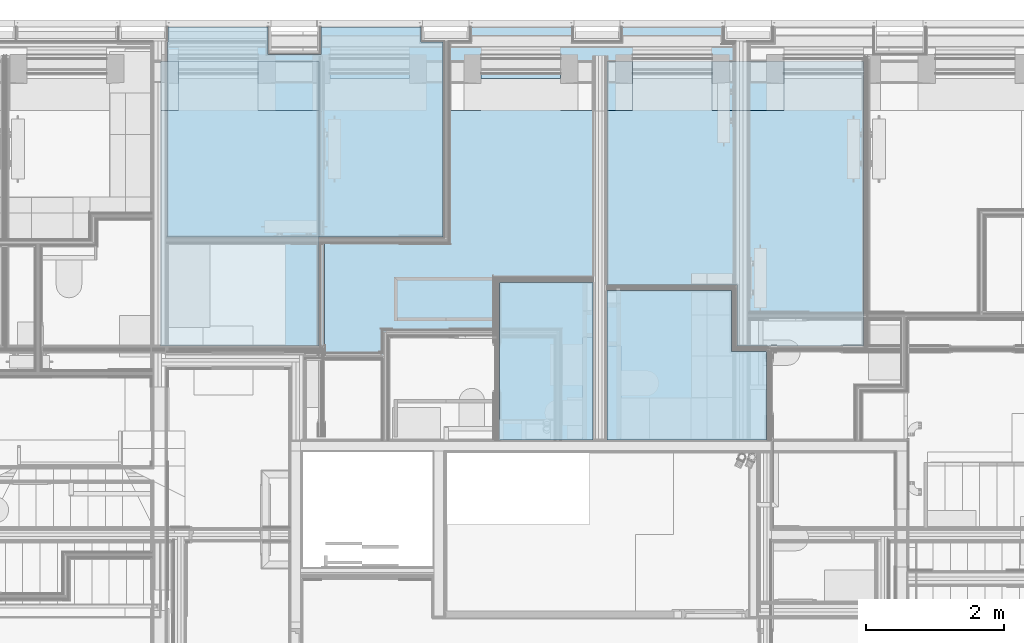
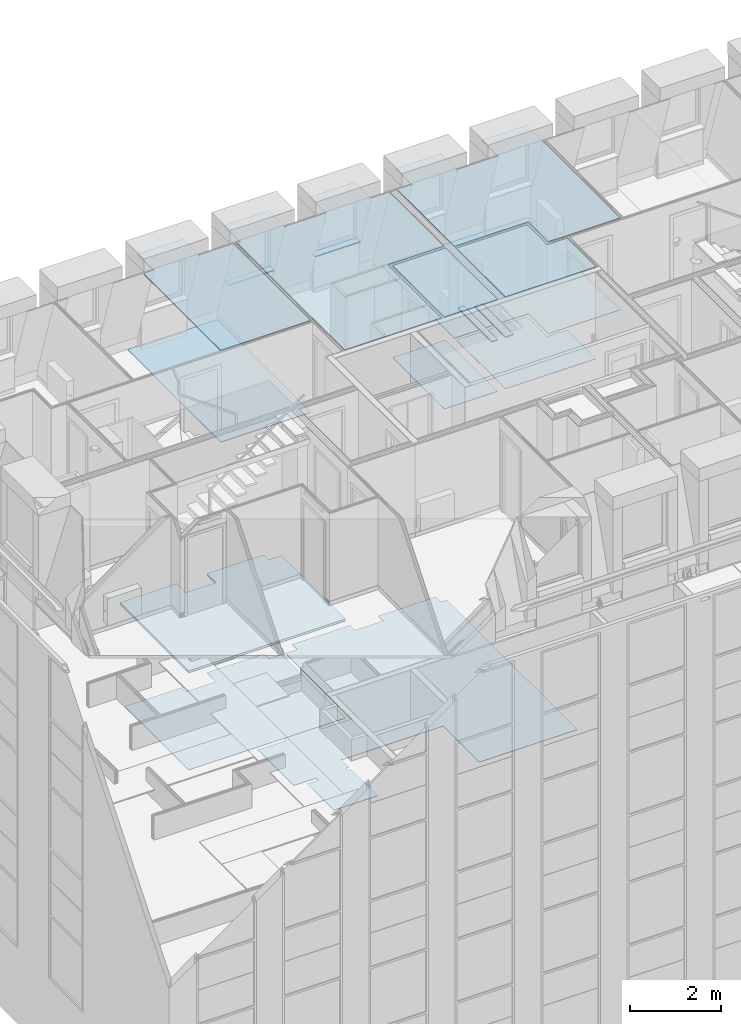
# One storey, part 75 of 169: 25 slabs.
"""IFC2X3 building model written with IfcOpenShell, lengths in metres."""

from ifc_helpers import new_model, entity, si_unit, converted_unit, derived_unit, money_unit, direction, frame, origin_with_axes, place, context, subcontext, project, spatial, faceted_brep, material, type_object, element, save


model = new_model("IFC2X3")

# Units and contexts
model_context = context("Model", 3, precision=1e-05, world=origin_with_axes(), true_north=direction((0.0, 1.0)))
body_context = subcontext(model_context, "Body", "Model", "MODEL_VIEW", scale=1.0)
ifc_project = project(units=[si_unit("LENGTHUNIT", "METRE"), si_unit("AREAUNIT", "SQUARE_METRE"), si_unit("VOLUMEUNIT", "CUBIC_METRE"), si_unit("ABSORBEDDOSEUNIT", "GRAY"), si_unit("AMOUNTOFSUBSTANCEUNIT", "MOLE"), si_unit("DOSEEQUIVALENTUNIT", "SIEVERT"), si_unit("ELECTRICCAPACITANCEUNIT", "FARAD"), si_unit("ELECTRICCHARGEUNIT", "COULOMB"), si_unit("ELECTRICCONDUCTANCEUNIT", "SIEMENS"), si_unit("ELECTRICCURRENTUNIT", "AMPERE"), si_unit("ELECTRICRESISTANCEUNIT", "OHM"), si_unit("ELECTRICVOLTAGEUNIT", "VOLT"), si_unit("ENERGYUNIT", "JOULE"), si_unit("FORCEUNIT", "NEWTON"), si_unit("FREQUENCYUNIT", "HERTZ"), si_unit("ILLUMINANCEUNIT", "LUX"), si_unit("INDUCTANCEUNIT", "HENRY"), si_unit("LUMINOUSFLUXUNIT", "LUMEN"), si_unit("LUMINOUSINTENSITYUNIT", "CANDELA"), si_unit("MAGNETICFLUXDENSITYUNIT", "TESLA"), si_unit("MAGNETICFLUXUNIT", "WEBER"), si_unit("MASSUNIT", "GRAM"), converted_unit("PLANEANGLEUNIT", "degree", entity("IfcReal", 0.0174532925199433), si_unit("PLANEANGLEUNIT", "RADIAN"), dimensions=[0, 0, 0, 0, 0, 0, 0]), si_unit("POWERUNIT", "WATT"), si_unit("PRESSUREUNIT", "PASCAL"), si_unit("RADIOACTIVITYUNIT", "BECQUEREL"), si_unit("SOLIDANGLEUNIT", "STERADIAN"), si_unit("THERMODYNAMICTEMPERATUREUNIT", "KELVIN"), si_unit("TIMEUNIT", "SECOND"), derived_unit("ACCELERATIONUNIT", [(si_unit("LENGTHUNIT", "METRE"), 1), (si_unit("TIMEUNIT", "SECOND"), -2)]), derived_unit("ANGULARVELOCITYUNIT", [(converted_unit("PLANEANGLEUNIT", "degree", entity("IfcReal", 0.0174532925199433), si_unit("PLANEANGLEUNIT", "RADIAN"), dimensions=[0, 0, 0, 0, 0, 0, 0]), 1), (si_unit("TIMEUNIT", "SECOND"), -1)]), derived_unit("CURVATUREUNIT", [(converted_unit("PLANEANGLEUNIT", "degree", entity("IfcReal", 0.0174532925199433), si_unit("PLANEANGLEUNIT", "RADIAN"), dimensions=[0, 0, 0, 0, 0, 0, 0]), 1), (si_unit("LENGTHUNIT", "METRE"), -1)]), derived_unit("DYNAMICVISCOSITYUNIT", [(si_unit("PRESSUREUNIT", "PASCAL"), 1), (si_unit("TIMEUNIT", "SECOND"), 1)]), derived_unit("HEATFLUXDENSITYUNIT", [(si_unit("POWERUNIT", "WATT"), 1), (si_unit("LENGTHUNIT", "METRE"), -2)]), derived_unit("HEATINGVALUEUNIT", [(si_unit("ENERGYUNIT", "JOULE"), 1), (si_unit("MASSUNIT", "GRAM"), -1)]), derived_unit("INTEGERCOUNTRATEUNIT", [(si_unit("TIMEUNIT", "SECOND"), -1)]), derived_unit("IONCONCENTRATIONUNIT", [(si_unit("MASSUNIT", "GRAM"), 1), (si_unit("VOLUMEUNIT", "CUBIC_METRE"), -1)]), derived_unit("ISOTHERMALMOISTURECAPACITYUNIT", [(si_unit("VOLUMEUNIT", "CUBIC_METRE"), 1), (si_unit("MASSUNIT", "GRAM"), -1)]), derived_unit("KINEMATICVISCOSITYUNIT", [(si_unit("AREAUNIT", "SQUARE_METRE"), 1), (si_unit("TIMEUNIT", "SECOND"), -1)]), derived_unit("LINEARFORCEUNIT", [(si_unit("FORCEUNIT", "NEWTON"), 1), (si_unit("LENGTHUNIT", "METRE"), -1)]), derived_unit("LINEARMOMENTUNIT", [(si_unit("FORCEUNIT", "NEWTON"), 1), (si_unit("LENGTHUNIT", "METRE"), -1)]), derived_unit("LINEARSTIFFNESSUNIT", [(si_unit("FORCEUNIT", "NEWTON"), 1), (si_unit("LENGTHUNIT", "METRE"), -1)]), derived_unit("LINEARVELOCITYUNIT", [(si_unit("LENGTHUNIT", "METRE"), 1), (si_unit("TIMEUNIT", "SECOND"), -1)]), derived_unit("LUMINOUSINTENSITYDISTRIBUTIONUNIT", [(si_unit("LUMINOUSINTENSITYUNIT", "CANDELA"), 1), (si_unit("LUMINOUSFLUXUNIT", "LUMEN"), -1)]), derived_unit("MASSDENSITYUNIT", [(si_unit("MASSUNIT", "GRAM"), 1), (si_unit("VOLUMEUNIT", "CUBIC_METRE"), -1)]), derived_unit("MASSFLOWRATEUNIT", [(si_unit("MASSUNIT", "GRAM"), 1), (si_unit("TIMEUNIT", "SECOND"), -1)]), derived_unit("MASSPERLENGTHUNIT", [(si_unit("MASSUNIT", "GRAM"), 1), (si_unit("LENGTHUNIT", "METRE"), -1)]), derived_unit("MODULUSOFELASTICITYUNIT", [(si_unit("FORCEUNIT", "NEWTON"), 1), (si_unit("AREAUNIT", "SQUARE_METRE"), -1)]), derived_unit("MODULUSOFLINEARSUBGRADEREACTIONUNIT", [(si_unit("FORCEUNIT", "NEWTON"), 1), (si_unit("LENGTHUNIT", "METRE"), -2)]), derived_unit("MODULUSOFROTATIONALSUBGRADEREACTIONUNIT", [(si_unit("FORCEUNIT", "NEWTON"), 1), (si_unit("LENGTHUNIT", "METRE"), 1)]), derived_unit("MODULUSOFSUBGRADEREACTIONUNIT", [(si_unit("FORCEUNIT", "NEWTON"), 1), (si_unit("VOLUMEUNIT", "CUBIC_METRE"), -1)]), derived_unit("MOISTUREDIFFUSIVITYUNIT", [(si_unit("VOLUMEUNIT", "CUBIC_METRE"), 1), (si_unit("TIMEUNIT", "SECOND"), -1)]), derived_unit("MOLECULARWEIGHTUNIT", [(si_unit("MASSUNIT", "GRAM"), 1), (si_unit("AMOUNTOFSUBSTANCEUNIT", "MOLE"), -1)]), derived_unit("PLANARFORCEUNIT", [(si_unit("FORCEUNIT", "NEWTON"), 1), (si_unit("LENGTHUNIT", "METRE"), -2)]), derived_unit("ROTATIONALFREQUENCYUNIT", [(si_unit("TIMEUNIT", "SECOND"), -1)]), derived_unit("ROTATIONALMASSUNIT", [(si_unit("MASSUNIT", "GRAM"), 1), (si_unit("LENGTHUNIT", "METRE"), 2)]), derived_unit("ROTATIONALSTIFFNESSUNIT", [(si_unit("FORCEUNIT", "NEWTON"), 1), (si_unit("LENGTHUNIT", "METRE"), 1), (converted_unit("PLANEANGLEUNIT", "degree", entity("IfcReal", 0.0174532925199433), si_unit("PLANEANGLEUNIT", "RADIAN"), dimensions=[0, 0, 0, 0, 0, 0, 0]), -1)]), derived_unit("SECTIONAREAINTEGRALUNIT", [(si_unit("LENGTHUNIT", "METRE"), 5)]), derived_unit("SECTIONMODULUSUNIT", [(si_unit("LENGTHUNIT", "METRE"), 3)]), derived_unit("SHEARMODULUSUNIT", [(si_unit("FORCEUNIT", "NEWTON"), 1), (si_unit("AREAUNIT", "SQUARE_METRE"), -1)]), derived_unit("SOUNDPOWERUNIT", [(si_unit("ENERGYUNIT", "JOULE"), 1), (si_unit("TIMEUNIT", "SECOND"), -1)]), derived_unit("SPECIFICHEATCAPACITYUNIT", [(si_unit("FORCEUNIT", "NEWTON"), 1), (si_unit("MASSUNIT", "GRAM"), -1), (si_unit("THERMODYNAMICTEMPERATUREUNIT", "KELVIN"), -1)]), derived_unit("TEMPERATUREGRADIENTUNIT", [(si_unit("THERMODYNAMICTEMPERATUREUNIT", "KELVIN"), 1), (si_unit("LENGTHUNIT", "METRE"), -1)]), derived_unit("THERMALADMITTANCEUNIT", [(si_unit("POWERUNIT", "WATT"), 1), (si_unit("AREAUNIT", "SQUARE_METRE"), -1), (si_unit("THERMODYNAMICTEMPERATUREUNIT", "KELVIN"), -1)]), derived_unit("THERMALCONDUCTANCEUNIT", [(si_unit("POWERUNIT", "WATT"), 1), (si_unit("LENGTHUNIT", "METRE"), -1), (si_unit("THERMODYNAMICTEMPERATUREUNIT", "KELVIN"), -1)]), derived_unit("THERMALEXPANSIONCOEFFICIENTUNIT", [(si_unit("THERMODYNAMICTEMPERATUREUNIT", "KELVIN"), -1)]), derived_unit("THERMALRESISTANCEUNIT", [(si_unit("AREAUNIT", "SQUARE_METRE"), 1), (si_unit("POWERUNIT", "WATT"), -1)]), derived_unit("THERMALTRANSMITTANCEUNIT", [(si_unit("POWERUNIT", "WATT"), 1), (si_unit("AREAUNIT", "SQUARE_METRE"), -1), (si_unit("THERMODYNAMICTEMPERATUREUNIT", "KELVIN"), -1)]), derived_unit("TORQUEUNIT", [(si_unit("FORCEUNIT", "NEWTON"), 1), (si_unit("LENGTHUNIT", "METRE"), 1)]), derived_unit("VAPORPERMEABILITYUNIT", [(si_unit("MASSUNIT", "GRAM"), 1), (si_unit("TIMEUNIT", "SECOND"), -1)]), derived_unit("VOLUMETRICFLOWRATEUNIT", [(si_unit("VOLUMEUNIT", "CUBIC_METRE"), 1), (si_unit("TIMEUNIT", "SECOND"), -1)]), derived_unit("WARPINGCONSTANTUNIT", [(si_unit("LENGTHUNIT", "METRE"), 6)]), derived_unit("WARPINGMOMENTUNIT", [(si_unit("FORCEUNIT", "NEWTON"), 1), (si_unit("LENGTHUNIT", "METRE"), 2)]), money_unit("GBP")], contexts=[model_context])

# Site, building, storey
site_placement = place(None, origin_with_axes())
site = spatial("IfcSite", under=ifc_project, at=site_placement, Name="Site", CompositionType="ELEMENT")
building_placement = place(site_placement, origin_with_axes())
building = spatial("IfcBuilding", under=site, at=building_placement, Name="Building01", CompositionType="ELEMENT")
storey_placement = place(building_placement, frame((0.0, 0.0, 5.15), z_axis=(0.0, 0.0, 1.0), x_axis=(1.0, 0.0, 0.0)))
storey = spatial("IfcBuildingStorey", under=building, at=storey_placement, Name="1F", CompositionType="ELEMENT", Elevation=5.15)

# Slabs
ifc_material_1 = material(Name="A_BSUK_Parquet_Floor")
slab_type_1 = type_object("IfcSlabType", Name="A-FloorsSlabs A_BSUK_Slabs", PredefinedType="FLOOR")
placement = place(storey_placement, frame((0.0, 0.0, -5.15), z_axis=(0.0, 0.0, 1.0), x_axis=(1.0, 0.0, 0.0)))
element("IfcSlab", 1, at=placement, inside=storey, type_object=slab_type_1, material=ifc_material_1, Name="A-FloorsSlabs A_BSUK_Slabs", ObjectType="CompoundSlabLeaf", context=body_context, shape_type="Brep", body=[
    faceted_brep([(9.285, 9.200704, 5.153), (9.285, 9.200704, 5.165), (9.285, 9.992662, 5.165), (9.285, 9.992662, 5.153), (9.285, 8.82, 5.153), (9.285, 8.82, 5.165), (10.393585, 8.82, 5.153), (10.393585, 8.82, 5.165), (10.393585, 9.992704, 5.153), (10.393585, 9.992704, 5.165), (10.309871, 9.992704, 5.153), (10.309871, 9.992704, 5.165), (10.309871, 10.087704, 5.153), (10.309871, 10.087704, 5.165), (10.393871, 10.087704, 5.153), (10.393871, 10.087704, 5.165), (10.393871, 10.415, 5.153), (10.393871, 10.415, 5.165), (12.988585, 10.415, 5.153), (12.988585, 10.415, 5.165), (12.988585, 8.82, 5.153), (12.988585, 8.82, 5.165), (15.483132, 8.82, 5.153), (15.483132, 8.82, 5.165), (15.483132, 14.582, 5.153), (15.483132, 14.582, 5.165), (15.335, 14.582, 5.153), (15.335, 14.582, 5.165), (15.335, 14.8, 5.153), (15.335, 14.8, 5.165), (13.865, 14.8, 5.153), (13.865, 14.8, 5.165), (13.865, 14.582, 5.153), (13.865, 14.582, 5.165), (13.145, 14.582, 5.153), (13.145, 14.582, 5.165), (13.145, 14.8, 5.153), (13.145, 14.8, 5.165), (11.675, 14.8, 5.153), (11.675, 14.8, 5.165), (11.675, 14.582, 5.153), (11.675, 14.582, 5.165), (11.375, 14.582, 5.153), (11.375, 14.582, 5.165), (11.375, 11.668124, 5.153), (11.375, 11.668124, 5.165), (10.611, 11.668124, 5.153), (10.611, 11.668124, 5.165), (10.611, 11.763124, 5.153), (10.611, 11.763124, 5.165), (9.711, 11.763124, 5.153), (9.711, 11.763124, 5.165), (9.711, 11.668124, 5.153), (9.711, 11.668124, 5.165), (8.995, 11.668124, 5.153), (8.995, 11.668124, 5.165), (8.995, 10.087704, 5.153), (8.995, 10.087704, 5.165), (9.09, 10.087704, 5.153), (9.09, 10.087704, 5.165), (9.559871, 10.087704, 5.153), (9.559871, 10.087704, 5.165), (9.559871, 9.992704, 5.153), (9.559871, 9.992704, 5.165)], [[[0, 1, 2, 3]], [[4, 5, 1, 0]], [[6, 7, 5, 4]], [[8, 9, 7, 6]], [[10, 11, 9, 8]], [[12, 13, 11, 10]], [[14, 15, 13, 12]], [[16, 17, 15, 14]], [[18, 19, 17, 16]], [[20, 21, 19, 18]], [[22, 23, 21, 20]], [[24, 25, 23, 22]], [[26, 27, 25, 24]], [[28, 29, 27, 26]], [[30, 31, 29, 28]], [[32, 33, 31, 30]], [[34, 35, 33, 32]], [[36, 37, 35, 34]], [[38, 39, 37, 36]], [[40, 41, 39, 38]], [[42, 43, 41, 40]], [[44, 45, 43, 42]], [[46, 47, 45, 44]], [[48, 49, 47, 46]], [[50, 51, 49, 48]], [[52, 53, 51, 50]], [[54, 55, 53, 52]], [[56, 57, 55, 54]], [[58, 59, 57, 56]], [[60, 61, 59, 58]], [[62, 63, 61, 60]], [[3, 2, 63, 62]], [[1, 5, 7, 9, 11, 13, 15, 17, 19, 21, 23, 25, 27, 29, 31, 33, 35, 37, 39, 41, 43, 45, 47, 49, 51, 53, 55, 57, 59, 61, 63, 2]], [[3, 62, 60, 58, 56, 54, 52, 50, 48, 46, 44, 42, 40, 38, 36, 34, 32, 30, 28, 26, 24, 22, 20, 18, 16, 14, 12, 10, 8, 6, 4, 0]]]),
])
ifc_material_2 = material(Name="A_BSUK_Carpet-Pile")
element("IfcSlab", 2, at=placement, inside=storey, type_object=slab_type_1, material=ifc_material_2, Name="A-FloorsSlabs A_BSUK_Slabs", ObjectType="CompoundSlabLeaf", context=body_context, shape_type="Brep", body=[
    faceted_brep([(7.289669, 11.763124, 5.153), (7.289669, 11.763124, 5.165), (7.289669, 14.582, 5.165), (7.289669, 14.582, 5.153), (8.995, 11.763124, 5.153), (8.995, 11.763124, 5.165), (11.28, 11.763124, 5.153), (11.28, 11.763124, 5.165), (11.28, 14.582, 5.153), (11.28, 14.582, 5.165), (10.955, 14.582, 5.153), (10.955, 14.582, 5.165), (10.955, 14.8, 5.153), (10.955, 14.8, 5.165), (9.508, 14.8, 5.153), (9.508, 14.8, 5.165), (9.508, 14.402, 5.153), (9.508, 14.402, 5.165), (8.742, 14.402, 5.153), (8.742, 14.402, 5.165), (8.742, 14.582, 5.153), (8.742, 14.582, 5.165), (7.295, 14.582, 5.153), (7.295, 14.582, 5.165)], [[[0, 1, 2, 3]], [[4, 5, 1, 0]], [[6, 7, 5, 4]], [[8, 9, 7, 6]], [[10, 11, 9, 8]], [[12, 13, 11, 10]], [[14, 15, 13, 12]], [[16, 17, 15, 14]], [[18, 19, 17, 16]], [[20, 21, 19, 18]], [[22, 23, 21, 20]], [[3, 2, 23, 22]], [[1, 5, 7, 9, 11, 13, 15, 17, 19, 21, 23, 2]], [[3, 22, 20, 18, 16, 14, 12, 10, 8, 6, 4, 0]]]),
])
ifc_material_3 = material(Name="A_BSUK_CeilingSoffitFinishes_Suspended")
element("IfcSlab", 3, at=placement, inside=storey, type_object=slab_type_1, material=ifc_material_3, Name="A-FloorsSlabs A_BSUK_Slabs", ObjectType="CompoundSlabLeaf", context=body_context, shape_type="Brep", body=[
    faceted_brep([(7.289669, 12.013124, 7.765), (7.289669, 12.013124, 7.78), (7.289669, 14.582, 7.78), (7.289669, 14.582, 7.765), (7.289669, 11.763124, 7.765), (7.289669, 11.763124, 7.78), (11.28, 11.763124, 7.765), (11.28, 11.763124, 7.78), (11.28, 14.582, 7.765), (11.28, 14.582, 7.78), (10.955, 14.582, 7.765), (10.955, 14.582, 7.78), (10.955, 14.8, 7.765), (10.955, 14.8, 7.78), (9.508, 14.8, 7.765), (9.508, 14.8, 7.78), (9.508, 14.402, 7.765), (9.508, 14.402, 7.78), (8.742, 14.402, 7.765), (8.742, 14.402, 7.78), (8.742, 14.8, 7.765), (8.742, 14.8, 7.78), (7.295, 14.8, 7.765), (7.295, 14.8, 7.78), (7.295, 14.582, 7.765), (7.295, 14.582, 7.78)], [[[0, 1, 2, 3]], [[4, 5, 1, 0]], [[6, 7, 5, 4]], [[8, 9, 7, 6]], [[10, 11, 9, 8]], [[12, 13, 11, 10]], [[14, 15, 13, 12]], [[16, 17, 15, 14]], [[18, 19, 17, 16]], [[20, 21, 19, 18]], [[22, 23, 21, 20]], [[24, 25, 23, 22]], [[3, 2, 25, 24]], [[1, 5, 7, 9, 11, 13, 15, 17, 19, 21, 23, 25, 2]], [[3, 24, 22, 20, 18, 16, 14, 12, 10, 8, 6, 4, 0]]]),
])
ifc_material_4 = material(Name="A_BSUK_Ceramic_WallTiles")
element("IfcSlab", 4, at=placement, inside=storey, type_object=slab_type_1, material=ifc_material_4, Name="A-FloorsSlabs A_BSUK_Slabs", ObjectType="CompoundSlabLeaf", context=body_context, shape_type="Brep", body=[
    faceted_brep([(13.45, 8.82, 16.355), (13.45, 8.82, 16.38), (13.297256, 8.82, 16.38), (13.297256, 8.82, 16.355), (13.45, 10.303849, 16.355), (13.45, 10.303849, 16.38), (13.297393, 10.303849, 16.355), (13.297393, 10.303849, 16.38)], [[[0, 1, 2, 3]], [[4, 5, 1, 0]], [[6, 7, 5, 4]], [[3, 2, 7, 6]], [[1, 5, 7, 2]], [[3, 6, 4, 0]]]),
])
element("IfcSlab", 5, at=placement, inside=storey, type_object=slab_type_1, material=ifc_material_4, Name="A-FloorsSlabs A_BSUK_Slabs", ObjectType="CompoundSlabLeaf", context=body_context, shape_type="Brep", body=[
    faceted_brep([(13.849998, 8.82, 16.355), (13.849998, 8.82, 16.38), (13.65, 8.82, 16.38), (13.65, 8.82, 16.355), (13.849998, 10.185441, 16.355), (13.849998, 10.185441, 16.38), (13.65, 10.185441, 16.355), (13.65, 10.185441, 16.38)], [[[0, 1, 2, 3]], [[4, 5, 1, 0]], [[6, 7, 5, 4]], [[3, 2, 7, 6]], [[1, 5, 7, 2]], [[3, 6, 4, 0]]]),
])
element("IfcSlab", 6, at=placement, inside=storey, type_object=slab_type_1, material=ifc_material_3, Name="A-FloorsSlabs A_BSUK_Slabs", ObjectType="CompoundSlabLeaf", context=body_context, shape_type="Brep", body=[
    faceted_brep([(9.480024, 10.179939, 17.423), (9.480024, 10.179939, 17.438), (7.190024, 10.179939, 17.438), (7.190024, 10.179939, 17.423), (9.480024, 13.587598, 17.423), (9.480024, 13.587598, 17.438), (8.600024, 13.587598, 17.423), (8.600024, 13.587598, 17.438), (8.600024, 14.300061, 17.423), (8.600024, 14.300061, 17.438), (7.450024, 14.300061, 17.423), (7.450024, 14.300061, 17.438), (7.450024, 13.587598, 17.423), (7.450024, 13.587598, 17.438), (7.190024, 13.587598, 17.423), (7.190024, 13.587598, 17.438)], [[[0, 1, 2, 3]], [[4, 5, 1, 0]], [[6, 7, 5, 4]], [[8, 9, 7, 6]], [[10, 11, 9, 8]], [[12, 13, 11, 10]], [[14, 15, 13, 12]], [[3, 2, 15, 14]], [[1, 5, 7, 9, 11, 13, 15, 2]], [[3, 14, 12, 10, 8, 6, 4, 0]]]),
])
element("IfcSlab", 7, at=placement, inside=storey, type_object=slab_type_1, material=ifc_material_3, Name="A-FloorsSlabs A_BSUK_Slabs", ObjectType="CompoundSlabLeaf", context=body_context, shape_type="Brep", body=[
    faceted_brep([(13.65, 11.063789, 17.423), (13.65, 11.063789, 17.438), (13.65, 13.587598, 17.438), (13.65, 13.587598, 17.423), (15.529998, 11.063789, 17.423), (15.529998, 11.063789, 17.438), (15.529998, 10.179939, 17.423), (15.529998, 10.179939, 17.438), (17.360024, 10.179939, 17.423), (17.360024, 10.179939, 17.438), (17.360024, 14.300061, 17.423), (17.360024, 14.300061, 17.438), (16.210024, 14.300061, 17.423), (16.210024, 14.300061, 17.438), (16.210024, 13.587598, 17.423), (16.210024, 13.587598, 17.438), (15.169976, 13.587598, 17.423), (15.169976, 13.587598, 17.438), (15.169976, 14.300061, 17.423), (15.169976, 14.300061, 17.438), (14.020024, 14.300061, 17.423), (14.020024, 14.300061, 17.438), (14.020024, 13.587598, 17.423), (14.020024, 13.587598, 17.438)], [[[0, 1, 2, 3]], [[4, 5, 1, 0]], [[6, 7, 5, 4]], [[8, 9, 7, 6]], [[10, 11, 9, 8]], [[12, 13, 11, 10]], [[14, 15, 13, 12]], [[16, 17, 15, 14]], [[18, 19, 17, 16]], [[20, 21, 19, 18]], [[22, 23, 21, 20]], [[3, 2, 23, 22]], [[1, 5, 7, 9, 11, 13, 15, 17, 19, 21, 23, 2]], [[3, 22, 20, 18, 16, 14, 12, 10, 8, 6, 4, 0]]]),
])
element("IfcSlab", 8, at=placement, inside=storey, type_object=slab_type_1, material=ifc_material_3, Name="A-FloorsSlabs A_BSUK_Slabs", ObjectType="CompoundSlabLeaf", context=body_context, shape_type="Brep", body=[
    faceted_brep([(12.097381, 8.82, 17.423), (12.097381, 8.82, 17.438), (12.097381, 11.103849, 17.438), (12.097381, 11.103849, 17.423), (13.297256, 8.82, 17.423), (13.297256, 8.82, 17.438), (13.45, 8.82, 17.423), (13.45, 8.82, 17.438), (13.45, 11.103849, 17.423), (13.45, 11.103849, 17.438)], [[[0, 1, 2, 3]], [[4, 5, 1, 0]], [[6, 7, 5, 4]], [[8, 9, 7, 6]], [[3, 2, 9, 8]], [[1, 5, 7, 9, 2]], [[3, 8, 6, 4, 0]]]),
])
element("IfcSlab", 9, at=placement, inside=storey, type_object=slab_type_1, material=ifc_material_3, Name="A-FloorsSlabs A_BSUK_Slabs", ObjectType="CompoundSlabLeaf", context=body_context, shape_type="Brep", body=[
    faceted_brep([(13.65, 8.82, 17.423), (13.65, 8.82, 17.438), (13.65, 10.983789, 17.438), (13.65, 10.983789, 17.423), (15.95844, 8.82, 17.423), (15.95844, 8.82, 17.438), (15.95844, 10.099939, 17.423), (15.95844, 10.099939, 17.438), (15.449998, 10.099939, 17.423), (15.449998, 10.099939, 17.438), (15.449998, 10.983789, 17.423), (15.449998, 10.983789, 17.438)], [[[0, 1, 2, 3]], [[4, 5, 1, 0]], [[6, 7, 5, 4]], [[8, 9, 7, 6]], [[10, 11, 9, 8]], [[3, 2, 11, 10]], [[1, 5, 7, 9, 11, 2]], [[3, 10, 8, 6, 4, 0]]]),
])
ifc_material_5 = material(Name="A_BSUK_ExpandedPolystyreneBoards")
element("IfcSlab", 10, at=placement, inside=storey, type_object=slab_type_1, material=ifc_material_5, Name="A-FloorsSlabs A_BSUK_Slabs", ObjectType="CompoundSlabLeaf", context=body_context, shape_type="Brep", body=[
    faceted_brep([(9.480024, 10.179939, 14.965), (9.480024, 10.179939, 14.968), (7.190024, 10.179939, 14.968), (7.190024, 10.179939, 14.965), (9.480024, 14.2962, 14.965), (9.480024, 14.2962, 14.968), (8.600024, 14.2962, 14.965), (8.600024, 14.2962, 14.968), (7.450024, 14.2962, 14.965), (7.450024, 14.2962, 14.968), (7.190024, 14.2962, 14.965), (7.190024, 14.2962, 14.968)], [[[0, 1, 2, 3]], [[4, 5, 1, 0]], [[6, 7, 5, 4]], [[8, 9, 7, 6]], [[10, 11, 9, 8]], [[3, 2, 11, 10]], [[1, 5, 7, 9, 11, 2]], [[3, 10, 8, 6, 4, 0]]]),
])
element("IfcSlab", 11, at=placement, inside=storey, type_object=slab_type_1, material=ifc_material_5, Name="A-FloorsSlabs A_BSUK_Slabs", ObjectType="CompoundSlabLeaf", context=body_context, shape_type="Brep", body=[
    faceted_brep([(13.65, 11.063789, 14.965), (13.65, 11.063789, 14.968), (13.65, 14.2962, 14.968), (13.65, 14.2962, 14.965), (15.529998, 11.063789, 14.965), (15.529998, 11.063789, 14.968), (15.529998, 10.179939, 14.965), (15.529998, 10.179939, 14.968), (17.360024, 10.179939, 14.965), (17.360024, 10.179939, 14.968), (17.360024, 14.2962, 14.965), (17.360024, 14.2962, 14.968), (16.210024, 14.2962, 14.965), (16.210024, 14.2962, 14.968), (15.169976, 14.2962, 14.965), (15.169976, 14.2962, 14.968), (14.020024, 14.2962, 14.965), (14.020024, 14.2962, 14.968)], [[[0, 1, 2, 3]], [[4, 5, 1, 0]], [[6, 7, 5, 4]], [[8, 9, 7, 6]], [[10, 11, 9, 8]], [[12, 13, 11, 10]], [[14, 15, 13, 12]], [[16, 17, 15, 14]], [[3, 2, 17, 16]], [[1, 5, 7, 9, 11, 13, 15, 17, 2]], [[3, 16, 14, 12, 10, 8, 6, 4, 0]]]),
])
element("IfcSlab", 12, at=placement, inside=storey, type_object=slab_type_1, material=ifc_material_5, Name="A-FloorsSlabs A_BSUK_Slabs", ObjectType="CompoundSlabLeaf", context=body_context, shape_type="Brep", body=[
    faceted_brep([(12.097381, 8.82, 14.965), (12.097381, 8.82, 14.968), (12.097381, 11.103849, 14.968), (12.097381, 11.103849, 14.965), (13.297256, 8.82, 14.965), (13.297256, 8.82, 14.968), (13.45, 8.82, 14.965), (13.45, 8.82, 14.968), (13.45, 11.103849, 14.965), (13.45, 11.103849, 14.968)], [[[0, 1, 2, 3]], [[4, 5, 1, 0]], [[6, 7, 5, 4]], [[8, 9, 7, 6]], [[3, 2, 9, 8]], [[1, 5, 7, 9, 2]], [[3, 8, 6, 4, 0]]]),
])
element("IfcSlab", 13, at=placement, inside=storey, type_object=slab_type_1, material=ifc_material_5, Name="A-FloorsSlabs A_BSUK_Slabs", ObjectType="CompoundSlabLeaf", context=body_context, shape_type="Brep", body=[
    faceted_brep([(13.65, 8.82, 14.965), (13.65, 8.82, 14.968), (13.65, 10.983789, 14.968), (13.65, 10.983789, 14.965), (15.95844, 8.82, 14.965), (15.95844, 8.82, 14.968), (15.95844, 10.099939, 14.965), (15.95844, 10.099939, 14.968), (15.449998, 10.099939, 14.965), (15.449998, 10.099939, 14.968), (15.449998, 10.983789, 14.965), (15.449998, 10.983789, 14.968)], [[[0, 1, 2, 3]], [[4, 5, 1, 0]], [[6, 7, 5, 4]], [[8, 9, 7, 6]], [[10, 11, 9, 8]], [[3, 2, 11, 10]], [[1, 5, 7, 9, 11, 2]], [[3, 10, 8, 6, 4, 0]]]),
])
ifc_material_6 = material(Name="A_BSUK_Timber_Miscellaneous")
element("IfcSlab", 14, at=placement, inside=storey, type_object=slab_type_1, material=ifc_material_6, Name="A-FloorsSlabs A_BSUK_Slabs", ObjectType="CompoundSlabLeaf", context=body_context, shape_type="Brep", body=[
    faceted_brep([(12.980024, 14.224661, 15.98), (12.980024, 14.224661, 16.005), (12.980024, 14.050061, 16.005), (12.980024, 14.050061, 15.98), (11.830024, 14.224661, 15.98), (11.830024, 14.224661, 16.005), (11.830024, 14.050062, 15.98), (11.830024, 14.050062, 16.005)], [[[0, 1, 2, 3]], [[4, 5, 1, 0]], [[6, 7, 5, 4]], [[3, 2, 7, 6]], [[1, 5, 7, 2]], [[3, 6, 4, 0]]]),
])
element("IfcSlab", 15, at=placement, inside=storey, type_object=slab_type_1, material=ifc_material_6, Name="A-FloorsSlabs A_BSUK_Slabs", ObjectType="CompoundSlabLeaf", context=body_context, shape_type="Brep", body=[
    faceted_brep([(10.790024, 14.224661, 15.98), (10.790024, 14.224661, 16.005), (10.790024, 14.050061, 16.005), (10.790024, 14.050061, 15.98), (9.640024, 14.224661, 15.98), (9.640024, 14.224661, 16.005), (9.640024, 14.050062, 15.98), (9.640024, 14.050062, 16.005)], [[[0, 1, 2, 3]], [[4, 5, 1, 0]], [[6, 7, 5, 4]], [[3, 2, 7, 6]], [[1, 5, 7, 2]], [[3, 6, 4, 0]]]),
])
element("IfcSlab", 16, at=placement, inside=storey, type_object=slab_type_1, material=ifc_material_3, Name="A-FloorsSlabs A_BSUK_Slabs", ObjectType="CompoundSlabLeaf", context=body_context, shape_type="Brep", body=[
    faceted_brep([(9.480024, 10.179939, 17.438), (9.480024, 10.179939, 17.453), (7.190024, 10.179939, 17.453), (7.190024, 10.179939, 17.438), (9.480024, 13.587598, 17.438), (9.480024, 13.587598, 17.453), (8.600024, 13.587598, 17.438), (8.600024, 13.587598, 17.453), (8.600024, 14.300061, 17.438), (8.600024, 14.300061, 17.453), (7.450024, 14.300061, 17.438), (7.450024, 14.300061, 17.453), (7.450024, 13.587598, 17.438), (7.450024, 13.587598, 17.453), (7.190024, 13.587598, 17.438), (7.190024, 13.587598, 17.453)], [[[0, 1, 2, 3]], [[4, 5, 1, 0]], [[6, 7, 5, 4]], [[8, 9, 7, 6]], [[10, 11, 9, 8]], [[12, 13, 11, 10]], [[14, 15, 13, 12]], [[3, 2, 15, 14]], [[1, 5, 7, 9, 11, 13, 15, 2]], [[3, 14, 12, 10, 8, 6, 4, 0]]]),
])
element("IfcSlab", 17, at=placement, inside=storey, type_object=slab_type_1, material=ifc_material_3, Name="A-FloorsSlabs A_BSUK_Slabs", ObjectType="CompoundSlabLeaf", context=body_context, shape_type="Brep", body=[
    faceted_brep([(12.017381, 8.82, 17.438), (12.017381, 8.82, 17.453), (9.560024, 8.82, 17.453), (9.560024, 8.82, 17.438), (12.017381, 11.183849, 17.438), (12.017381, 11.183849, 17.453), (13.45, 11.183849, 17.438), (13.45, 11.183849, 17.453), (13.45, 13.587598, 17.438), (13.45, 13.587598, 17.453), (12.979976, 13.587598, 17.438), (12.979976, 13.587598, 17.453), (12.979976, 14.300061, 17.438), (12.979976, 14.300061, 17.453), (11.830024, 14.300061, 17.438), (11.830024, 14.300061, 17.453), (11.830024, 13.587598, 17.438), (11.830024, 13.587598, 17.453), (10.789976, 13.587598, 17.438), (10.789976, 13.587598, 17.453), (10.789976, 14.300061, 17.438), (10.789976, 14.300061, 17.453), (9.640024, 14.300061, 17.438), (9.640024, 14.300061, 17.453), (9.640024, 13.587598, 17.438), (9.640024, 13.587598, 17.453), (9.560024, 13.587598, 17.438), (9.560024, 13.587598, 17.453)], [[[0, 1, 2, 3]], [[4, 5, 1, 0]], [[6, 7, 5, 4]], [[8, 9, 7, 6]], [[10, 11, 9, 8]], [[12, 13, 11, 10]], [[14, 15, 13, 12]], [[16, 17, 15, 14]], [[18, 19, 17, 16]], [[20, 21, 19, 18]], [[22, 23, 21, 20]], [[24, 25, 23, 22]], [[26, 27, 25, 24]], [[3, 2, 27, 26]], [[1, 5, 7, 9, 11, 13, 15, 17, 19, 21, 23, 25, 27, 2]], [[3, 26, 24, 22, 20, 18, 16, 14, 12, 10, 8, 6, 4, 0]]]),
])
element("IfcSlab", 18, at=placement, inside=storey, type_object=slab_type_1, material=ifc_material_3, Name="A-FloorsSlabs A_BSUK_Slabs", ObjectType="CompoundSlabLeaf", context=body_context, shape_type="Brep", body=[
    faceted_brep([(13.65, 11.063789, 17.438), (13.65, 11.063789, 17.453), (13.65, 13.587598, 17.453), (13.65, 13.587598, 17.438), (15.529998, 11.063789, 17.438), (15.529998, 11.063789, 17.453), (15.529998, 10.179939, 17.438), (15.529998, 10.179939, 17.453), (17.360024, 10.179939, 17.438), (17.360024, 10.179939, 17.453), (17.360024, 14.300061, 17.438), (17.360024, 14.300061, 17.453), (16.210024, 14.300061, 17.438), (16.210024, 14.300061, 17.453), (16.210024, 13.587598, 17.438), (16.210024, 13.587598, 17.453), (15.169976, 13.587598, 17.438), (15.169976, 13.587598, 17.453), (15.169976, 14.300061, 17.438), (15.169976, 14.300061, 17.453), (14.020024, 14.300061, 17.438), (14.020024, 14.300061, 17.453), (14.020024, 13.587598, 17.438), (14.020024, 13.587598, 17.453)], [[[0, 1, 2, 3]], [[4, 5, 1, 0]], [[6, 7, 5, 4]], [[8, 9, 7, 6]], [[10, 11, 9, 8]], [[12, 13, 11, 10]], [[14, 15, 13, 12]], [[16, 17, 15, 14]], [[18, 19, 17, 16]], [[20, 21, 19, 18]], [[22, 23, 21, 20]], [[3, 2, 23, 22]], [[1, 5, 7, 9, 11, 13, 15, 17, 19, 21, 23, 2]], [[3, 22, 20, 18, 16, 14, 12, 10, 8, 6, 4, 0]]]),
])
element("IfcSlab", 19, at=placement, inside=storey, type_object=slab_type_1, material=ifc_material_3, Name="A-FloorsSlabs A_BSUK_Slabs", ObjectType="CompoundSlabLeaf", context=body_context, shape_type="Brep", body=[
    faceted_brep([(12.097381, 8.82, 17.438), (12.097381, 8.82, 17.453), (12.097381, 11.103849, 17.453), (12.097381, 11.103849, 17.438), (13.297256, 8.82, 17.438), (13.297256, 8.82, 17.453), (13.45, 8.82, 17.438), (13.45, 8.82, 17.453), (13.45, 11.103849, 17.438), (13.45, 11.103849, 17.453)], [[[0, 1, 2, 3]], [[4, 5, 1, 0]], [[6, 7, 5, 4]], [[8, 9, 7, 6]], [[3, 2, 9, 8]], [[1, 5, 7, 9, 2]], [[3, 8, 6, 4, 0]]]),
])
element("IfcSlab", 20, at=placement, inside=storey, type_object=slab_type_1, material=ifc_material_3, Name="A-FloorsSlabs A_BSUK_Slabs", ObjectType="CompoundSlabLeaf", context=body_context, shape_type="Brep", body=[
    faceted_brep([(13.65, 8.82, 17.438), (13.65, 8.82, 17.453), (13.65, 10.983789, 17.453), (13.65, 10.983789, 17.438), (15.95844, 8.82, 17.438), (15.95844, 8.82, 17.453), (15.95844, 10.099939, 17.438), (15.95844, 10.099939, 17.453), (15.449998, 10.099939, 17.438), (15.449998, 10.099939, 17.453), (15.449998, 10.983789, 17.438), (15.449998, 10.983789, 17.453)], [[[0, 1, 2, 3]], [[4, 5, 1, 0]], [[6, 7, 5, 4]], [[8, 9, 7, 6]], [[10, 11, 9, 8]], [[3, 2, 11, 10]], [[1, 5, 7, 9, 11, 2]], [[3, 10, 8, 6, 4, 0]]]),
])
ifc_material_7 = material(Name="A_BSUK_Ceramic_FloorTiles")
slab_type_2 = type_object("IfcSlabType", Name="A-Finishes A_BSUK_Ceramic_FloorTiles", PredefinedType="FLOOR")
element("IfcSlab", 21, at=placement, inside=storey, type_object=slab_type_2, material=ifc_material_7, Name="A-Finishes A_BSUK_Ceramic_FloorTiles", ObjectType="CompoundSlabLeaf", context=body_context, shape_type="Brep", body=[
    faceted_brep([(12.097381, 8.82, 14.968), (12.097381, 8.82, 14.98), (12.097381, 11.103849, 14.98), (12.097381, 11.103849, 14.968), (13.297256, 8.82, 14.968), (13.297256, 8.82, 14.98), (13.45, 8.82, 14.968), (13.45, 8.82, 14.98), (13.45, 11.103849, 14.968), (13.45, 11.103849, 14.98)], [[[0, 1, 2, 3]], [[4, 5, 1, 0]], [[6, 7, 5, 4]], [[8, 9, 7, 6]], [[3, 2, 9, 8]], [[1, 5, 7, 9, 2]], [[3, 8, 6, 4, 0]]]),
])
element("IfcSlab", 22, at=placement, inside=storey, type_object=slab_type_2, material=ifc_material_7, Name="A-Finishes A_BSUK_Ceramic_FloorTiles", ObjectType="CompoundSlabLeaf", context=body_context, shape_type="Brep", body=[
    faceted_brep([(13.65, 8.82, 14.968), (13.65, 8.82, 14.98), (13.65, 10.983789, 14.98), (13.65, 10.983789, 14.968), (15.95844, 8.82, 14.968), (15.95844, 8.82, 14.98), (15.95844, 10.099939, 14.968), (15.95844, 10.099939, 14.98), (15.449998, 10.099939, 14.968), (15.449998, 10.099939, 14.98), (15.449998, 10.983789, 14.968), (15.449998, 10.983789, 14.98)], [[[0, 1, 2, 3]], [[4, 5, 1, 0]], [[6, 7, 5, 4]], [[8, 9, 7, 6]], [[10, 11, 9, 8]], [[3, 2, 11, 10]], [[1, 5, 7, 9, 11, 2]], [[3, 10, 8, 6, 4, 0]]]),
])
slab_type_3 = type_object("IfcSlabType", Name="A-FloorsSlabs A_BSUK_ExpandedPolystyreneBoards", PredefinedType="FLOOR")
element("IfcSlab", 23, at=placement, inside=storey, type_object=slab_type_3, material=ifc_material_5, Name="A-FloorsSlabs A_BSUK_ExpandedPolystyreneBoards", ObjectType="CompoundSlabLeaf", context=body_context, shape_type="Brep", body=[
    faceted_brep([(7.289669, 12.013124, 7.78), (7.289669, 12.013124, 7.83), (7.289669, 14.582, 7.83), (7.289669, 14.582, 7.78), (7.289669, 11.763124, 7.78), (7.289669, 11.763124, 7.83), (11.28, 11.763124, 7.78), (11.28, 11.763124, 7.83), (11.28, 14.582, 7.78), (11.28, 14.582, 7.83), (10.955, 14.582, 7.78), (10.955, 14.582, 7.83), (10.955, 14.8, 7.78), (10.955, 14.8, 7.83), (9.508, 14.8, 7.78), (9.508, 14.8, 7.83), (9.508, 14.402, 7.78), (9.508, 14.402, 7.83), (8.742, 14.402, 7.78), (8.742, 14.402, 7.83), (8.742, 14.8, 7.78), (8.742, 14.8, 7.83), (7.295, 14.8, 7.78), (7.295, 14.8, 7.83), (7.295, 14.582, 7.78), (7.295, 14.582, 7.83)], [[[0, 1, 2, 3]], [[4, 5, 1, 0]], [[6, 7, 5, 4]], [[8, 9, 7, 6]], [[10, 11, 9, 8]], [[12, 13, 11, 10]], [[14, 15, 13, 12]], [[16, 17, 15, 14]], [[18, 19, 17, 16]], [[20, 21, 19, 18]], [[22, 23, 21, 20]], [[24, 25, 23, 22]], [[3, 2, 25, 24]], [[1, 5, 7, 9, 11, 13, 15, 17, 19, 21, 23, 25, 2]], [[3, 24, 22, 20, 18, 16, 14, 12, 10, 8, 6, 4, 0]]]),
])
slab_type_4 = type_object("IfcSlabType", Name="A-Finishes A_BSUK_Carpet-Pile", PredefinedType="FLOOR")
element("IfcSlab", 24, at=placement, inside=storey, type_object=slab_type_4, material=ifc_material_2, Name="A-Finishes A_BSUK_Carpet-Pile", ObjectType="CompoundSlabLeaf", context=body_context, shape_type="Brep", body=[
    faceted_brep([(9.480024, 10.179939, 14.968), (9.480024, 10.179939, 14.98), (7.190024, 10.179939, 14.98), (7.190024, 10.179939, 14.968), (9.480024, 14.2962, 14.968), (9.480024, 14.2962, 14.98), (8.600024, 14.2962, 14.968), (8.600024, 14.2962, 14.98), (7.450024, 14.2962, 14.968), (7.450024, 14.2962, 14.98), (7.190024, 14.2962, 14.968), (7.190024, 14.2962, 14.98)], [[[0, 1, 2, 3]], [[4, 5, 1, 0]], [[6, 7, 5, 4]], [[8, 9, 7, 6]], [[10, 11, 9, 8]], [[3, 2, 11, 10]], [[1, 5, 7, 9, 11, 2]], [[3, 10, 8, 6, 4, 0]]]),
])
element("IfcSlab", 25, at=placement, inside=storey, type_object=slab_type_4, material=ifc_material_2, Name="A-Finishes A_BSUK_Carpet-Pile", ObjectType="CompoundSlabLeaf", context=body_context, shape_type="Brep", body=[
    faceted_brep([(13.65, 11.063789, 14.968), (13.65, 11.063789, 14.98), (13.65, 14.2962, 14.98), (13.65, 14.2962, 14.968), (15.529998, 11.063789, 14.968), (15.529998, 11.063789, 14.98), (15.529998, 10.179939, 14.968), (15.529998, 10.179939, 14.98), (17.360024, 10.179939, 14.968), (17.360024, 10.179939, 14.98), (17.360024, 14.2962, 14.968), (17.360024, 14.2962, 14.98), (16.210024, 14.2962, 14.968), (16.210024, 14.2962, 14.98), (15.169976, 14.2962, 14.968), (15.169976, 14.2962, 14.98), (14.020024, 14.2962, 14.968), (14.020024, 14.2962, 14.98)], [[[0, 1, 2, 3]], [[4, 5, 1, 0]], [[6, 7, 5, 4]], [[8, 9, 7, 6]], [[10, 11, 9, 8]], [[12, 13, 11, 10]], [[14, 15, 13, 12]], [[16, 17, 15, 14]], [[3, 2, 17, 16]], [[1, 5, 7, 9, 11, 13, 15, 17, 2]], [[3, 16, 14, 12, 10, 8, 6, 4, 0]]]),
])

save(model, "model.ifc")
